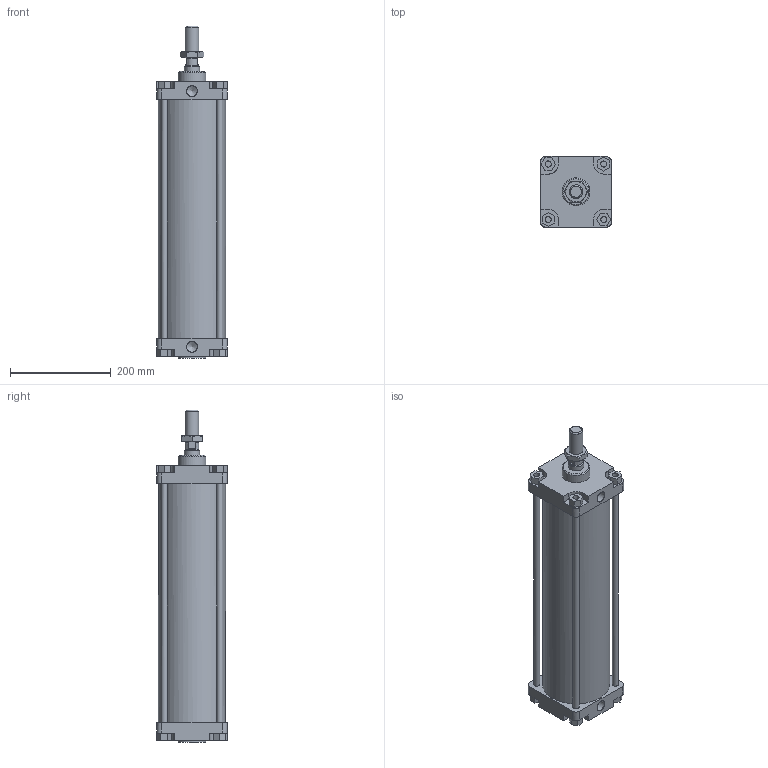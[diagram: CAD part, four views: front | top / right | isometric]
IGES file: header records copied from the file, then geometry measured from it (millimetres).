
Global section: file name: 1303_125_0400_01A; native system: Autodesk Inventor 2014; preprocessor: unknown; author: A. Manieri; date: 20161124.141555; units: millimetre
Bounding box: 140 x 140 x 658 mm (x, y, z)
Volume: 3566553.3 mm3; surface area: 712904.7 mm2
Topology: 9 solids, 9 shells, 175 faces, 440 edges, 295 vertices
Faces by surface type: bspline 175
